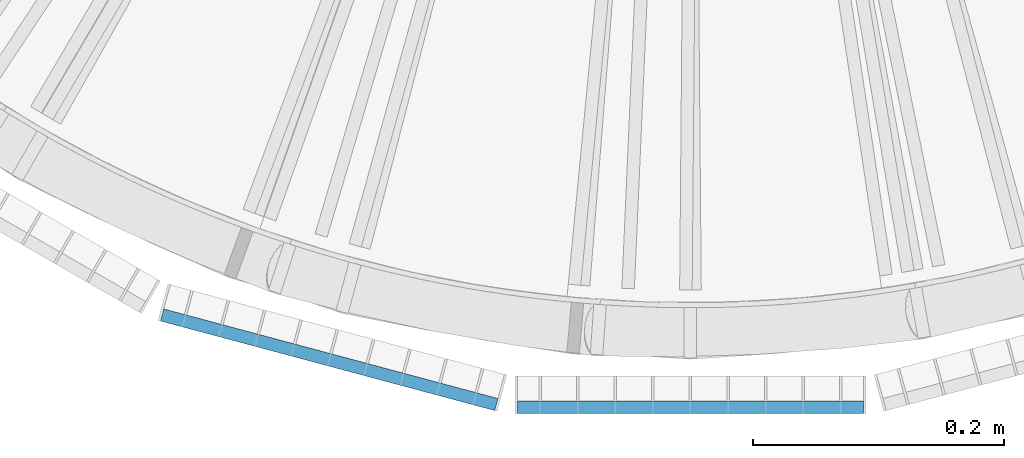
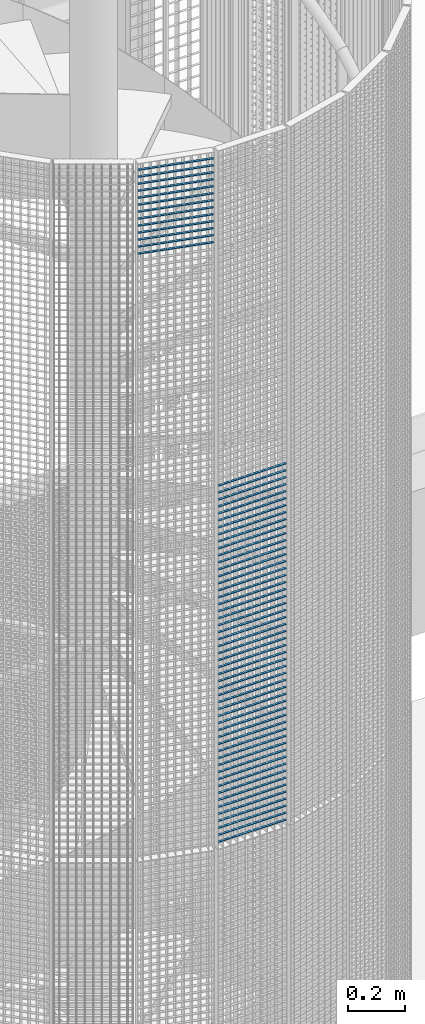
# One storey, part 136 of 1148: 65 beams, 2 elements without a shape of their own.
"""IFC2X3 building model written with IfcOpenShell, lengths in millimetres."""

from ifc_helpers import new_model, si_unit, frame, origin_with_axes, origin_2d_with_axis, place, context, subcontext, project, spatial, rectangle, extrude, material, type_object, element, aggregate, save


model = new_model("IFC2X3")

# Units and contexts
model_context = context("Model", 3, precision=1e-05, world=origin_with_axes())
body_context = subcontext(model_context, "Body", "Model", "MODEL_VIEW")
ifc_project = project(units=[si_unit("LENGTHUNIT", "METRE", prefix="MILLI"), si_unit("AREAUNIT", "SQUARE_METRE"), si_unit("VOLUMEUNIT", "CUBIC_METRE"), si_unit("MASSUNIT", "GRAM", prefix="KILO"), si_unit("TIMEUNIT", "SECOND"), si_unit("PLANEANGLEUNIT", "RADIAN"), si_unit("SOLIDANGLEUNIT", "STERADIAN"), si_unit("THERMODYNAMICTEMPERATUREUNIT", "DEGREE_CELSIUS"), si_unit("LUMINOUSINTENSITYUNIT", "LUMEN")], contexts=[model_context])

# Site, building, storey
site_placement = place(None, origin_with_axes())
site = spatial("IfcSite", under=ifc_project, at=site_placement, Name="Undefined", CompositionType="ELEMENT")
building_placement = place(site_placement, origin_with_axes())
building = spatial("IfcBuilding", under=site, at=building_placement, Name="Undefined", CompositionType="ELEMENT")
storey_placement = place(building_placement, origin_with_axes())
storey = spatial("IfcBuildingStorey", under=building, at=storey_placement, Name="Undefined", CompositionType="ELEMENT", Elevation=0.0)

# Assembly, beams
assembly_1_placement = place(storey_placement, origin_with_axes())
assembly_1 = element("IfcElementAssembly", 1, at=assembly_1_placement, inside=storey, Name="BORDURE", AssemblyPlace="NOTDEFINED", PredefinedType="NOTDEFINED")
ifc_material = material(Name="STEEL/S235JR")
beam_type = type_object("IfcBeamType", Name="PL2*10", PredefinedType="NOTDEFINED")
beam_1_placement = place(assembly_1_placement, frame((-137.996003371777, -1113.47999999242, 16560.0), z_axis=(0.0, -1.0, 0.0), x_axis=(1.0, 0.0, 0.0)))
beam_1 = element("IfcBeam", 2, at=beam_1_placement, type_object=beam_type, material=ifc_material, Name="ENTRETOISE", context=body_context, shape_type="SweptSolid", body=[
    extrude(rectangle(XDim=2.0, YDim=10.0, at=origin_2d_with_axis()), frame((275.999999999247, 9.09494701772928e-13, 1.53210777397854e-14), z_axis=(-1.0, 0.0, 0.0), x_axis=(0.0, -1.0, 0.0)), (0.0, 0.0, 1.0), 276.0),
])
beam_2_placement = place(assembly_1_placement, frame((-137.996003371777, -1113.47999999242, 16530.0), z_axis=(0.0, -1.0, 0.0), x_axis=(1.0, 0.0, 0.0)))
beam_2 = element("IfcBeam", 3, at=beam_2_placement, type_object=beam_type, material=ifc_material, Name="ENTRETOISE", context=body_context, shape_type="SweptSolid", body=[
    extrude(rectangle(XDim=2.0, YDim=10.0, at=origin_2d_with_axis()), frame((275.999999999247, 9.09494701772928e-13, 1.53210777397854e-14), z_axis=(-1.0, 0.0, 0.0), x_axis=(0.0, -1.0, 0.0)), (0.0, 0.0, 1.0), 276.0),
])
beam_3_placement = place(assembly_1_placement, frame((-137.996003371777, -1113.47999999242, 16500.0), z_axis=(0.0, -1.0, 0.0), x_axis=(1.0, 0.0, 0.0)))
beam_3 = element("IfcBeam", 4, at=beam_3_placement, type_object=beam_type, material=ifc_material, Name="ENTRETOISE", context=body_context, shape_type="SweptSolid", body=[
    extrude(rectangle(XDim=2.0, YDim=10.0, at=origin_2d_with_axis()), frame((275.999999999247, 9.09494701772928e-13, 1.53210777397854e-14), z_axis=(-1.0, 0.0, 0.0), x_axis=(0.0, -1.0, 0.0)), (0.0, 0.0, 1.0), 276.0),
])
beam_4_placement = place(assembly_1_placement, frame((-137.996003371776, -1113.47999999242, 16470.0), z_axis=(0.0, -1.0, 0.0), x_axis=(1.0, 0.0, 0.0)))
beam_4 = element("IfcBeam", 5, at=beam_4_placement, type_object=beam_type, material=ifc_material, Name="ENTRETOISE", context=body_context, shape_type="SweptSolid", body=[
    extrude(rectangle(XDim=2.0, YDim=10.0, at=origin_2d_with_axis()), frame((275.999999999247, 9.09494701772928e-13, 1.53210777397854e-14), z_axis=(-1.0, 0.0, 0.0), x_axis=(0.0, -1.0, 0.0)), (0.0, 0.0, 1.0), 276.0),
])
beam_5_placement = place(assembly_1_placement, frame((-137.996003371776, -1113.47999999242, 16440.0), z_axis=(0.0, -1.0, 0.0), x_axis=(1.0, 0.0, 0.0)))
beam_5 = element("IfcBeam", 6, at=beam_5_placement, type_object=beam_type, material=ifc_material, Name="ENTRETOISE", context=body_context, shape_type="SweptSolid", body=[
    extrude(rectangle(XDim=2.0, YDim=10.0, at=origin_2d_with_axis()), frame((275.999999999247, 9.09494701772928e-13, 1.53210777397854e-14), z_axis=(-1.0, 0.0, 0.0), x_axis=(0.0, -1.0, 0.0)), (0.0, 0.0, 1.0), 276.0),
])
beam_6_placement = place(assembly_1_placement, frame((-137.996003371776, -1113.47999999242, 16410.0), z_axis=(0.0, -1.0, 0.0), x_axis=(1.0, 0.0, 0.0)))
beam_6 = element("IfcBeam", 7, at=beam_6_placement, type_object=beam_type, material=ifc_material, Name="ENTRETOISE", context=body_context, shape_type="SweptSolid", body=[
    extrude(rectangle(XDim=2.0, YDim=10.0, at=origin_2d_with_axis()), frame((275.999999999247, 9.09494701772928e-13, 1.53210777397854e-14), z_axis=(-1.0, 0.0, 0.0), x_axis=(0.0, -1.0, 0.0)), (0.0, 0.0, 1.0), 276.0),
])
beam_7_placement = place(assembly_1_placement, frame((-137.996003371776, -1113.47999999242, 16380.0), z_axis=(0.0, -1.0, 0.0), x_axis=(1.0, 0.0, 0.0)))
beam_7 = element("IfcBeam", 8, at=beam_7_placement, type_object=beam_type, material=ifc_material, Name="ENTRETOISE", context=body_context, shape_type="SweptSolid", body=[
    extrude(rectangle(XDim=2.0, YDim=10.0, at=origin_2d_with_axis()), frame((275.999999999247, 9.09494701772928e-13, 1.53210777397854e-14), z_axis=(-1.0, 0.0, 0.0), x_axis=(0.0, -1.0, 0.0)), (0.0, 0.0, 1.0), 276.0),
])
beam_8_placement = place(assembly_1_placement, frame((-137.996003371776, -1113.47999999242, 16350.0), z_axis=(0.0, -1.0, 0.0), x_axis=(1.0, 0.0, 0.0)))
beam_8 = element("IfcBeam", 9, at=beam_8_placement, type_object=beam_type, material=ifc_material, Name="ENTRETOISE", context=body_context, shape_type="SweptSolid", body=[
    extrude(rectangle(XDim=2.0, YDim=10.0, at=origin_2d_with_axis()), frame((275.999999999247, 9.09494701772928e-13, 1.53210777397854e-14), z_axis=(-1.0, 0.0, 0.0), x_axis=(0.0, -1.0, 0.0)), (0.0, 0.0, 1.0), 276.0),
])
beam_9_placement = place(assembly_1_placement, frame((-137.996003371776, -1113.47999999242, 16320.0), z_axis=(0.0, -1.0, 0.0), x_axis=(1.0, 0.0, 0.0)))
beam_9 = element("IfcBeam", 10, at=beam_9_placement, type_object=beam_type, material=ifc_material, Name="ENTRETOISE", context=body_context, shape_type="SweptSolid", body=[
    extrude(rectangle(XDim=2.0, YDim=10.0, at=origin_2d_with_axis()), frame((275.999999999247, 9.09494701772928e-13, 1.53210777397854e-14), z_axis=(-1.0, 0.0, 0.0), x_axis=(0.0, -1.0, 0.0)), (0.0, 0.0, 1.0), 276.0),
])
beam_10_placement = place(assembly_1_placement, frame((-137.996003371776, -1113.47999999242, 16290.0), z_axis=(0.0, -1.0, 0.0), x_axis=(1.0, 0.0, 0.0)))
beam_10 = element("IfcBeam", 11, at=beam_10_placement, type_object=beam_type, material=ifc_material, Name="ENTRETOISE", context=body_context, shape_type="SweptSolid", body=[
    extrude(rectangle(XDim=2.0, YDim=10.0, at=origin_2d_with_axis()), frame((275.999999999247, 9.09494701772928e-13, 1.53210777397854e-14), z_axis=(-1.0, 0.0, 0.0), x_axis=(0.0, -1.0, 0.0)), (0.0, 0.0, 1.0), 276.0),
])
beam_11_placement = place(assembly_1_placement, frame((-137.996003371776, -1113.47999999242, 16260.0), z_axis=(0.0, -1.0, 0.0), x_axis=(1.0, 0.0, 0.0)))
beam_11 = element("IfcBeam", 12, at=beam_11_placement, type_object=beam_type, material=ifc_material, Name="ENTRETOISE", context=body_context, shape_type="SweptSolid", body=[
    extrude(rectangle(XDim=2.0, YDim=10.0, at=origin_2d_with_axis()), frame((275.999999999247, 9.09494701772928e-13, 1.53210777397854e-14), z_axis=(-1.0, 0.0, 0.0), x_axis=(0.0, -1.0, 0.0)), (0.0, 0.0, 1.0), 276.0),
])
beam_12_placement = place(assembly_1_placement, frame((-137.996003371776, -1113.47999999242, 16230.0), z_axis=(0.0, -1.0, 0.0), x_axis=(1.0, 0.0, 0.0)))
beam_12 = element("IfcBeam", 13, at=beam_12_placement, type_object=beam_type, material=ifc_material, Name="ENTRETOISE", context=body_context, shape_type="SweptSolid", body=[
    extrude(rectangle(XDim=2.0, YDim=10.0, at=origin_2d_with_axis()), frame((275.999999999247, 9.09494701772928e-13, 1.53210777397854e-14), z_axis=(-1.0, 0.0, 0.0), x_axis=(0.0, -1.0, 0.0)), (0.0, 0.0, 1.0), 276.0),
])
beam_13_placement = place(assembly_1_placement, frame((-137.996003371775, -1113.47999999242, 16200.0), z_axis=(0.0, -1.0, 0.0), x_axis=(1.0, 0.0, 0.0)))
beam_13 = element("IfcBeam", 14, at=beam_13_placement, type_object=beam_type, material=ifc_material, Name="ENTRETOISE", context=body_context, shape_type="SweptSolid", body=[
    extrude(rectangle(XDim=2.0, YDim=10.0, at=origin_2d_with_axis()), frame((275.999999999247, 9.09494701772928e-13, 1.53210777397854e-14), z_axis=(-1.0, 0.0, 0.0), x_axis=(0.0, -1.0, 0.0)), (0.0, 0.0, 1.0), 276.0),
])
beam_14_placement = place(assembly_1_placement, frame((-137.996003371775, -1113.47999999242, 16170.0), z_axis=(0.0, -1.0, 0.0), x_axis=(1.0, 0.0, 0.0)))
beam_14 = element("IfcBeam", 15, at=beam_14_placement, type_object=beam_type, material=ifc_material, Name="ENTRETOISE", context=body_context, shape_type="SweptSolid", body=[
    extrude(rectangle(XDim=2.0, YDim=10.0, at=origin_2d_with_axis()), frame((275.999999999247, 9.09494701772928e-13, 1.53210777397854e-14), z_axis=(-1.0, 0.0, 0.0), x_axis=(0.0, -1.0, 0.0)), (0.0, 0.0, 1.0), 276.0),
])
beam_15_placement = place(assembly_1_placement, frame((-137.996003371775, -1113.47999999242, 16140.0), z_axis=(0.0, -1.0, 0.0), x_axis=(1.0, 0.0, 0.0)))
beam_15 = element("IfcBeam", 16, at=beam_15_placement, type_object=beam_type, material=ifc_material, Name="ENTRETOISE", context=body_context, shape_type="SweptSolid", body=[
    extrude(rectangle(XDim=2.0, YDim=10.0, at=origin_2d_with_axis()), frame((275.999999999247, 9.09494701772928e-13, 1.53210777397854e-14), z_axis=(-1.0, 0.0, 0.0), x_axis=(0.0, -1.0, 0.0)), (0.0, 0.0, 1.0), 276.0),
])
beam_16_placement = place(assembly_1_placement, frame((-137.996003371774, -1113.47999999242, 15720.0), z_axis=(0.0, -1.0, 0.0), x_axis=(1.0, 0.0, 0.0)))
beam_16 = element("IfcBeam", 17, at=beam_16_placement, type_object=beam_type, material=ifc_material, Name="ENTRETOISE", context=body_context, shape_type="SweptSolid", body=[
    extrude(rectangle(XDim=2.0, YDim=10.0, at=origin_2d_with_axis()), frame((275.999999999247, 9.09494701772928e-13, 1.53210777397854e-14), z_axis=(-1.0, 0.0, 0.0), x_axis=(0.0, -1.0, 0.0)), (0.0, 0.0, 1.0), 276.0),
])
beam_17_placement = place(assembly_1_placement, frame((-137.996003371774, -1113.47999999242, 15690.0), z_axis=(0.0, -1.0, 0.0), x_axis=(1.0, 0.0, 0.0)))
beam_17 = element("IfcBeam", 18, at=beam_17_placement, type_object=beam_type, material=ifc_material, Name="ENTRETOISE", context=body_context, shape_type="SweptSolid", body=[
    extrude(rectangle(XDim=2.0, YDim=10.0, at=origin_2d_with_axis()), frame((275.999999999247, 9.09494701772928e-13, 1.53210777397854e-14), z_axis=(-1.0, 0.0, 0.0), x_axis=(0.0, -1.0, 0.0)), (0.0, 0.0, 1.0), 276.0),
])
beam_18_placement = place(assembly_1_placement, frame((-137.996003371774, -1113.47999999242, 15750.0), z_axis=(0.0, -1.0, 0.0), x_axis=(1.0, 0.0, 0.0)))
beam_18 = element("IfcBeam", 19, at=beam_18_placement, type_object=beam_type, material=ifc_material, Name="ENTRETOISE", context=body_context, shape_type="SweptSolid", body=[
    extrude(rectangle(XDim=2.0, YDim=10.0, at=origin_2d_with_axis()), frame((275.999999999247, 9.09494701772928e-13, 1.53210777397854e-14), z_axis=(-1.0, 0.0, 0.0), x_axis=(0.0, -1.0, 0.0)), (0.0, 0.0, 1.0), 276.0),
])
beam_19_placement = place(assembly_1_placement, frame((-137.996003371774, -1113.47999999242, 15660.0), z_axis=(0.0, -1.0, 0.0), x_axis=(1.0, 0.0, 0.0)))
beam_19 = element("IfcBeam", 20, at=beam_19_placement, type_object=beam_type, material=ifc_material, Name="ENTRETOISE", context=body_context, shape_type="SweptSolid", body=[
    extrude(rectangle(XDim=2.0, YDim=10.0, at=origin_2d_with_axis()), frame((275.999999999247, 9.09494701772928e-13, 1.53210777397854e-14), z_axis=(-1.0, 0.0, 0.0), x_axis=(0.0, -1.0, 0.0)), (0.0, 0.0, 1.0), 276.0),
])
beam_20_placement = place(assembly_1_placement, frame((-137.996003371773, -1113.47999999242, 15630.0), z_axis=(0.0, -1.0, 0.0), x_axis=(1.0, 0.0, 0.0)))
beam_20 = element("IfcBeam", 21, at=beam_20_placement, type_object=beam_type, material=ifc_material, Name="ENTRETOISE", context=body_context, shape_type="SweptSolid", body=[
    extrude(rectangle(XDim=2.0, YDim=10.0, at=origin_2d_with_axis()), frame((275.999999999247, 9.09494701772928e-13, 1.53210777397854e-14), z_axis=(-1.0, 0.0, 0.0), x_axis=(0.0, -1.0, 0.0)), (0.0, 0.0, 1.0), 276.0),
])
beam_21_placement = place(assembly_1_placement, frame((-137.996003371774, -1113.47999999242, 15780.0), z_axis=(0.0, -1.0, 0.0), x_axis=(1.0, 0.0, 0.0)))
beam_21 = element("IfcBeam", 22, at=beam_21_placement, type_object=beam_type, material=ifc_material, Name="ENTRETOISE", context=body_context, shape_type="SweptSolid", body=[
    extrude(rectangle(XDim=2.0, YDim=10.0, at=origin_2d_with_axis()), frame((275.999999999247, 9.09494701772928e-13, 1.53210777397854e-14), z_axis=(-1.0, 0.0, 0.0), x_axis=(0.0, -1.0, 0.0)), (0.0, 0.0, 1.0), 276.0),
])
beam_22_placement = place(assembly_1_placement, frame((-137.996003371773, -1113.47999999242, 15600.0), z_axis=(0.0, -1.0, 0.0), x_axis=(1.0, 0.0, 0.0)))
beam_22 = element("IfcBeam", 23, at=beam_22_placement, type_object=beam_type, material=ifc_material, Name="ENTRETOISE", context=body_context, shape_type="SweptSolid", body=[
    extrude(rectangle(XDim=2.0, YDim=10.0, at=origin_2d_with_axis()), frame((275.999999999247, 9.09494701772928e-13, 1.53210777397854e-14), z_axis=(-1.0, 0.0, 0.0), x_axis=(0.0, -1.0, 0.0)), (0.0, 0.0, 1.0), 276.0),
])
beam_23_placement = place(assembly_1_placement, frame((-137.996003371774, -1113.47999999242, 15810.0), z_axis=(0.0, -1.0, 0.0), x_axis=(1.0, 0.0, 0.0)))
beam_23 = element("IfcBeam", 24, at=beam_23_placement, type_object=beam_type, material=ifc_material, Name="ENTRETOISE", context=body_context, shape_type="SweptSolid", body=[
    extrude(rectangle(XDim=2.0, YDim=10.0, at=origin_2d_with_axis()), frame((275.999999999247, 9.09494701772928e-13, 1.53210777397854e-14), z_axis=(-1.0, 0.0, 0.0), x_axis=(0.0, -1.0, 0.0)), (0.0, 0.0, 1.0), 276.0),
])
beam_24_placement = place(assembly_1_placement, frame((-137.996003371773, -1113.47999999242, 15570.0), z_axis=(0.0, -1.0, 0.0), x_axis=(1.0, 0.0, 0.0)))
beam_24 = element("IfcBeam", 25, at=beam_24_placement, type_object=beam_type, material=ifc_material, Name="ENTRETOISE", context=body_context, shape_type="SweptSolid", body=[
    extrude(rectangle(XDim=2.0, YDim=10.0, at=origin_2d_with_axis()), frame((275.999999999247, 9.09494701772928e-13, 1.53210777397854e-14), z_axis=(-1.0, 0.0, 0.0), x_axis=(0.0, -1.0, 0.0)), (0.0, 0.0, 1.0), 276.0),
])
beam_25_placement = place(assembly_1_placement, frame((-137.996003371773, -1113.47999999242, 15540.0), z_axis=(0.0, -1.0, 0.0), x_axis=(1.0, 0.0, 0.0)))
beam_25 = element("IfcBeam", 26, at=beam_25_placement, type_object=beam_type, material=ifc_material, Name="ENTRETOISE", context=body_context, shape_type="SweptSolid", body=[
    extrude(rectangle(XDim=2.0, YDim=10.0, at=origin_2d_with_axis()), frame((275.999999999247, 9.09494701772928e-13, 1.53210777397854e-14), z_axis=(-1.0, 0.0, 0.0), x_axis=(0.0, -1.0, 0.0)), (0.0, 0.0, 1.0), 276.0),
])
beam_26_placement = place(assembly_1_placement, frame((-137.996003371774, -1113.47999999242, 15840.0), z_axis=(0.0, -1.0, 0.0), x_axis=(1.0, 0.0, 0.0)))
beam_26 = element("IfcBeam", 27, at=beam_26_placement, type_object=beam_type, material=ifc_material, Name="ENTRETOISE", context=body_context, shape_type="SweptSolid", body=[
    extrude(rectangle(XDim=2.0, YDim=10.0, at=origin_2d_with_axis()), frame((275.999999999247, 9.09494701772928e-13, 1.53210777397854e-14), z_axis=(-1.0, 0.0, 0.0), x_axis=(0.0, -1.0, 0.0)), (0.0, 0.0, 1.0), 276.0),
])
beam_27_placement = place(assembly_1_placement, frame((-137.996003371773, -1113.47999999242, 15510.0), z_axis=(0.0, -1.0, 0.0), x_axis=(1.0, 0.0, 0.0)))
beam_27 = element("IfcBeam", 28, at=beam_27_placement, type_object=beam_type, material=ifc_material, Name="ENTRETOISE", context=body_context, shape_type="SweptSolid", body=[
    extrude(rectangle(XDim=2.0, YDim=10.0, at=origin_2d_with_axis()), frame((275.999999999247, 9.09494701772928e-13, 1.53210777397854e-14), z_axis=(-1.0, 0.0, 0.0), x_axis=(0.0, -1.0, 0.0)), (0.0, 0.0, 1.0), 276.0),
])
beam_28_placement = place(assembly_1_placement, frame((-137.996003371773, -1113.47999999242, 15480.0), z_axis=(0.0, -1.0, 0.0), x_axis=(1.0, 0.0, 0.0)))
beam_28 = element("IfcBeam", 29, at=beam_28_placement, type_object=beam_type, material=ifc_material, Name="ENTRETOISE", context=body_context, shape_type="SweptSolid", body=[
    extrude(rectangle(XDim=2.0, YDim=10.0, at=origin_2d_with_axis()), frame((275.999999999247, 9.09494701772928e-13, 1.53210777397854e-14), z_axis=(-1.0, 0.0, 0.0), x_axis=(0.0, -1.0, 0.0)), (0.0, 0.0, 1.0), 276.0),
])
beam_29_placement = place(assembly_1_placement, frame((-137.996003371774, -1113.47999999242, 15870.0), z_axis=(0.0, -1.0, 0.0), x_axis=(1.0, 0.0, 0.0)))
beam_29 = element("IfcBeam", 30, at=beam_29_placement, type_object=beam_type, material=ifc_material, Name="ENTRETOISE", context=body_context, shape_type="SweptSolid", body=[
    extrude(rectangle(XDim=2.0, YDim=10.0, at=origin_2d_with_axis()), frame((275.999999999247, 9.09494701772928e-13, 1.53210777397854e-14), z_axis=(-1.0, 0.0, 0.0), x_axis=(0.0, -1.0, 0.0)), (0.0, 0.0, 1.0), 276.0),
])
beam_30_placement = place(assembly_1_placement, frame((-137.996003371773, -1113.47999999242, 15450.0), z_axis=(0.0, -1.0, 0.0), x_axis=(1.0, 0.0, 0.0)))
beam_30 = element("IfcBeam", 31, at=beam_30_placement, type_object=beam_type, material=ifc_material, Name="ENTRETOISE", context=body_context, shape_type="SweptSolid", body=[
    extrude(rectangle(XDim=2.0, YDim=10.0, at=origin_2d_with_axis()), frame((275.999999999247, 9.09494701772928e-13, 1.53210777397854e-14), z_axis=(-1.0, 0.0, 0.0), x_axis=(0.0, -1.0, 0.0)), (0.0, 0.0, 1.0), 276.0),
])
beam_31_placement = place(assembly_1_placement, frame((-137.996003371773, -1113.47999999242, 15420.0), z_axis=(0.0, -1.0, 0.0), x_axis=(1.0, 0.0, 0.0)))
beam_31 = element("IfcBeam", 32, at=beam_31_placement, type_object=beam_type, material=ifc_material, Name="ENTRETOISE", context=body_context, shape_type="SweptSolid", body=[
    extrude(rectangle(XDim=2.0, YDim=10.0, at=origin_2d_with_axis()), frame((275.999999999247, 9.09494701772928e-13, 1.53210777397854e-14), z_axis=(-1.0, 0.0, 0.0), x_axis=(0.0, -1.0, 0.0)), (0.0, 0.0, 1.0), 276.0),
])
beam_32_placement = place(assembly_1_placement, frame((-137.996003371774, -1113.47999999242, 15900.0), z_axis=(0.0, -1.0, 0.0), x_axis=(1.0, 0.0, 0.0)))
beam_32 = element("IfcBeam", 33, at=beam_32_placement, type_object=beam_type, material=ifc_material, Name="ENTRETOISE", context=body_context, shape_type="SweptSolid", body=[
    extrude(rectangle(XDim=2.0, YDim=10.0, at=origin_2d_with_axis()), frame((275.999999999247, 9.09494701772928e-13, 1.53210777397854e-14), z_axis=(-1.0, 0.0, 0.0), x_axis=(0.0, -1.0, 0.0)), (0.0, 0.0, 1.0), 276.0),
])
beam_33_placement = place(assembly_1_placement, frame((-137.996003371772, -1113.47999999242, 15390.0), z_axis=(0.0, -1.0, 0.0), x_axis=(1.0, 0.0, 0.0)))
beam_33 = element("IfcBeam", 34, at=beam_33_placement, type_object=beam_type, material=ifc_material, Name="ENTRETOISE", context=body_context, shape_type="SweptSolid", body=[
    extrude(rectangle(XDim=2.0, YDim=10.0, at=origin_2d_with_axis()), frame((275.999999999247, 9.09494701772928e-13, 1.53210777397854e-14), z_axis=(-1.0, 0.0, 0.0), x_axis=(0.0, -1.0, 0.0)), (0.0, 0.0, 1.0), 276.0),
])
beam_34_placement = place(assembly_1_placement, frame((-137.996003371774, -1113.47999999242, 15930.0), z_axis=(0.0, -1.0, 0.0), x_axis=(1.0, 0.0, 0.0)))
beam_34 = element("IfcBeam", 35, at=beam_34_placement, type_object=beam_type, material=ifc_material, Name="ENTRETOISE", context=body_context, shape_type="SweptSolid", body=[
    extrude(rectangle(XDim=2.0, YDim=10.0, at=origin_2d_with_axis()), frame((275.999999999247, 9.09494701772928e-13, 1.53210777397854e-14), z_axis=(-1.0, 0.0, 0.0), x_axis=(0.0, -1.0, 0.0)), (0.0, 0.0, 1.0), 276.0),
])
beam_35_placement = place(assembly_1_placement, frame((-137.996003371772, -1113.47999999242, 15360.0), z_axis=(0.0, -1.0, 0.0), x_axis=(1.0, 0.0, 0.0)))
beam_35 = element("IfcBeam", 36, at=beam_35_placement, type_object=beam_type, material=ifc_material, Name="ENTRETOISE", context=body_context, shape_type="SweptSolid", body=[
    extrude(rectangle(XDim=2.0, YDim=10.0, at=origin_2d_with_axis()), frame((275.999999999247, 9.09494701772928e-13, 1.53210777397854e-14), z_axis=(-1.0, 0.0, 0.0), x_axis=(0.0, -1.0, 0.0)), (0.0, 0.0, 1.0), 276.0),
])
beam_36_placement = place(assembly_1_placement, frame((-137.996003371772, -1113.47999999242, 15330.0), z_axis=(0.0, -1.0, 0.0), x_axis=(1.0, 0.0, 0.0)))
beam_36 = element("IfcBeam", 37, at=beam_36_placement, type_object=beam_type, material=ifc_material, Name="ENTRETOISE", context=body_context, shape_type="SweptSolid", body=[
    extrude(rectangle(XDim=2.0, YDim=10.0, at=origin_2d_with_axis()), frame((275.999999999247, 9.09494701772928e-13, 1.53210777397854e-14), z_axis=(-1.0, 0.0, 0.0), x_axis=(0.0, -1.0, 0.0)), (0.0, 0.0, 1.0), 276.0),
])
beam_37_placement = place(assembly_1_placement, frame((-137.996003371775, -1113.47999999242, 15960.0), z_axis=(0.0, -1.0, 0.0), x_axis=(1.0, 0.0, 0.0)))
beam_37 = element("IfcBeam", 38, at=beam_37_placement, type_object=beam_type, material=ifc_material, Name="ENTRETOISE", context=body_context, shape_type="SweptSolid", body=[
    extrude(rectangle(XDim=2.0, YDim=10.0, at=origin_2d_with_axis()), frame((275.999999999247, 9.09494701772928e-13, 1.53210777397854e-14), z_axis=(-1.0, 0.0, 0.0), x_axis=(0.0, -1.0, 0.0)), (0.0, 0.0, 1.0), 276.0),
])
beam_38_placement = place(assembly_1_placement, frame((-137.996003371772, -1113.47999999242, 15300.0), z_axis=(0.0, -1.0, 0.0), x_axis=(1.0, 0.0, 0.0)))
beam_38 = element("IfcBeam", 39, at=beam_38_placement, type_object=beam_type, material=ifc_material, Name="ENTRETOISE", context=body_context, shape_type="SweptSolid", body=[
    extrude(rectangle(XDim=2.0, YDim=10.0, at=origin_2d_with_axis()), frame((275.999999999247, 9.09494701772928e-13, 1.53210777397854e-14), z_axis=(-1.0, 0.0, 0.0), x_axis=(0.0, -1.0, 0.0)), (0.0, 0.0, 1.0), 276.0),
])
beam_39_placement = place(assembly_1_placement, frame((-137.996003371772, -1113.47999999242, 15270.0), z_axis=(0.0, -1.0, 0.0), x_axis=(1.0, 0.0, 0.0)))
beam_39 = element("IfcBeam", 40, at=beam_39_placement, type_object=beam_type, material=ifc_material, Name="ENTRETOISE", context=body_context, shape_type="SweptSolid", body=[
    extrude(rectangle(XDim=2.0, YDim=10.0, at=origin_2d_with_axis()), frame((275.999999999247, 9.09494701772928e-13, 1.53210777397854e-14), z_axis=(-1.0, 0.0, 0.0), x_axis=(0.0, -1.0, 0.0)), (0.0, 0.0, 1.0), 276.0),
])
beam_40_placement = place(assembly_1_placement, frame((-137.996003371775, -1113.47999999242, 15990.0), z_axis=(0.0, -1.0, 0.0), x_axis=(1.0, 0.0, 0.0)))
beam_40 = element("IfcBeam", 41, at=beam_40_placement, type_object=beam_type, material=ifc_material, Name="ENTRETOISE", context=body_context, shape_type="SweptSolid", body=[
    extrude(rectangle(XDim=2.0, YDim=10.0, at=origin_2d_with_axis()), frame((275.999999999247, 9.09494701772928e-13, 1.53210777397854e-14), z_axis=(-1.0, 0.0, 0.0), x_axis=(0.0, -1.0, 0.0)), (0.0, 0.0, 1.0), 276.0),
])
beam_41_placement = place(assembly_1_placement, frame((-137.996003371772, -1113.47999999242, 15240.0), z_axis=(0.0, -1.0, 0.0), x_axis=(1.0, 0.0, 0.0)))
beam_41 = element("IfcBeam", 42, at=beam_41_placement, type_object=beam_type, material=ifc_material, Name="ENTRETOISE", context=body_context, shape_type="SweptSolid", body=[
    extrude(rectangle(XDim=2.0, YDim=10.0, at=origin_2d_with_axis()), frame((275.999999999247, 9.09494701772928e-13, 1.53210777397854e-14), z_axis=(-1.0, 0.0, 0.0), x_axis=(0.0, -1.0, 0.0)), (0.0, 0.0, 1.0), 276.0),
])
beam_42_placement = place(assembly_1_placement, frame((-137.996003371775, -1113.47999999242, 16020.0), z_axis=(0.0, -1.0, 0.0), x_axis=(1.0, 0.0, 0.0)))
beam_42 = element("IfcBeam", 43, at=beam_42_placement, type_object=beam_type, material=ifc_material, Name="ENTRETOISE", context=body_context, shape_type="SweptSolid", body=[
    extrude(rectangle(XDim=2.0, YDim=10.0, at=origin_2d_with_axis()), frame((275.999999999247, 9.09494701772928e-13, 1.53210777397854e-14), z_axis=(-1.0, 0.0, 0.0), x_axis=(0.0, -1.0, 0.0)), (0.0, 0.0, 1.0), 276.0),
])
beam_43_placement = place(assembly_1_placement, frame((-137.996003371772, -1113.47999999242, 15210.0), z_axis=(0.0, -1.0, 0.0), x_axis=(1.0, 0.0, 0.0)))
beam_43 = element("IfcBeam", 44, at=beam_43_placement, type_object=beam_type, material=ifc_material, Name="ENTRETOISE", context=body_context, shape_type="SweptSolid", body=[
    extrude(rectangle(XDim=2.0, YDim=10.0, at=origin_2d_with_axis()), frame((275.999999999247, 9.09494701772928e-13, 1.53210777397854e-14), z_axis=(-1.0, 0.0, 0.0), x_axis=(0.0, -1.0, 0.0)), (0.0, 0.0, 1.0), 276.0),
])
beam_44_placement = place(assembly_1_placement, frame((-137.996003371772, -1113.47999999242, 15180.0), z_axis=(0.0, -1.0, 0.0), x_axis=(1.0, 0.0, 0.0)))
beam_44 = element("IfcBeam", 45, at=beam_44_placement, type_object=beam_type, material=ifc_material, Name="ENTRETOISE", context=body_context, shape_type="SweptSolid", body=[
    extrude(rectangle(XDim=2.0, YDim=10.0, at=origin_2d_with_axis()), frame((275.999999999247, 9.09494701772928e-13, 1.53210777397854e-14), z_axis=(-1.0, 0.0, 0.0), x_axis=(0.0, -1.0, 0.0)), (0.0, 0.0, 1.0), 276.0),
])
beam_45_placement = place(assembly_1_placement, frame((-137.996003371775, -1113.47999999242, 16050.0), z_axis=(0.0, -1.0, 0.0), x_axis=(1.0, 0.0, 0.0)))
beam_45 = element("IfcBeam", 46, at=beam_45_placement, type_object=beam_type, material=ifc_material, Name="ENTRETOISE", context=body_context, shape_type="SweptSolid", body=[
    extrude(rectangle(XDim=2.0, YDim=10.0, at=origin_2d_with_axis()), frame((275.999999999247, 9.09494701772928e-13, 1.53210777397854e-14), z_axis=(-1.0, 0.0, 0.0), x_axis=(0.0, -1.0, 0.0)), (0.0, 0.0, 1.0), 276.0),
])
beam_46_placement = place(assembly_1_placement, frame((-137.996003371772, -1113.47999999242, 15150.0), z_axis=(0.0, -1.0, 0.0), x_axis=(1.0, 0.0, 0.0)))
beam_46 = element("IfcBeam", 47, at=beam_46_placement, type_object=beam_type, material=ifc_material, Name="ENTRETOISE", context=body_context, shape_type="SweptSolid", body=[
    extrude(rectangle(XDim=2.0, YDim=10.0, at=origin_2d_with_axis()), frame((275.999999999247, 9.09494701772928e-13, 1.53210777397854e-14), z_axis=(-1.0, 0.0, 0.0), x_axis=(0.0, -1.0, 0.0)), (0.0, 0.0, 1.0), 276.0),
])
beam_47_placement = place(assembly_1_placement, frame((-137.996003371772, -1113.47999999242, 15120.0), z_axis=(0.0, -1.0, 0.0), x_axis=(1.0, 0.0, 0.0)))
beam_47 = element("IfcBeam", 48, at=beam_47_placement, type_object=beam_type, material=ifc_material, Name="ENTRETOISE", context=body_context, shape_type="SweptSolid", body=[
    extrude(rectangle(XDim=2.0, YDim=10.0, at=origin_2d_with_axis()), frame((275.999999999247, 9.09494701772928e-13, 1.53210777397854e-14), z_axis=(-1.0, 0.0, 0.0), x_axis=(0.0, -1.0, 0.0)), (0.0, 0.0, 1.0), 276.0),
])
beam_48_placement = place(assembly_1_placement, frame((-137.996003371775, -1113.47999999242, 16080.0), z_axis=(0.0, -1.0, 0.0), x_axis=(1.0, 0.0, 0.0)))
beam_48 = element("IfcBeam", 49, at=beam_48_placement, type_object=beam_type, material=ifc_material, Name="ENTRETOISE", context=body_context, shape_type="SweptSolid", body=[
    extrude(rectangle(XDim=2.0, YDim=10.0, at=origin_2d_with_axis()), frame((275.999999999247, 9.09494701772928e-13, 1.53210777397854e-14), z_axis=(-1.0, 0.0, 0.0), x_axis=(0.0, -1.0, 0.0)), (0.0, 0.0, 1.0), 276.0),
])
beam_49_placement = place(assembly_1_placement, frame((-137.996003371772, -1113.47999999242, 15090.0), z_axis=(0.0, -1.0, 0.0), x_axis=(1.0, 0.0, 0.0)))
beam_49 = element("IfcBeam", 50, at=beam_49_placement, type_object=beam_type, material=ifc_material, Name="ENTRETOISE", context=body_context, shape_type="SweptSolid", body=[
    extrude(rectangle(XDim=2.0, YDim=10.0, at=origin_2d_with_axis()), frame((275.999999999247, 9.09494701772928e-13, 1.53210777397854e-14), z_axis=(-1.0, 0.0, 0.0), x_axis=(0.0, -1.0, 0.0)), (0.0, 0.0, 1.0), 276.0),
])
beam_50_placement = place(assembly_1_placement, frame((-137.996003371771, -1113.47999999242, 15060.0), z_axis=(0.0, -1.0, 0.0), x_axis=(1.0, 0.0, 0.0)))
beam_50 = element("IfcBeam", 51, at=beam_50_placement, type_object=beam_type, material=ifc_material, Name="ENTRETOISE", context=body_context, shape_type="SweptSolid", body=[
    extrude(rectangle(XDim=2.0, YDim=10.0, at=origin_2d_with_axis()), frame((275.999999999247, 9.09494701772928e-13, 1.53210777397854e-14), z_axis=(-1.0, 0.0, 0.0), x_axis=(0.0, -1.0, 0.0)), (0.0, 0.0, 1.0), 276.0),
])
beam_51_placement = place(assembly_1_placement, frame((-137.996003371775, -1113.47999999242, 16110.0), z_axis=(0.0, -1.0, 0.0), x_axis=(1.0, 0.0, 0.0)))
beam_51 = element("IfcBeam", 52, at=beam_51_placement, type_object=beam_type, material=ifc_material, Name="ENTRETOISE", context=body_context, shape_type="SweptSolid", body=[
    extrude(rectangle(XDim=2.0, YDim=10.0, at=origin_2d_with_axis()), frame((275.999999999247, 9.09494701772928e-13, 1.53210777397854e-14), z_axis=(-1.0, 0.0, 0.0), x_axis=(0.0, -1.0, 0.0)), (0.0, 0.0, 1.0), 276.0),
])
beam_52_placement = place(assembly_1_placement, frame((-137.99600337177, -1113.47999999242, 15030.0), z_axis=(0.0, -1.0, 0.0), x_axis=(1.0, 0.0, 0.0)))
beam_52 = element("IfcBeam", 53, at=beam_52_placement, type_object=beam_type, material=ifc_material, Name="ENTRETOISE", context=body_context, shape_type="SweptSolid", body=[
    extrude(rectangle(XDim=2.0, YDim=10.0, at=origin_2d_with_axis()), frame((275.999999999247, 9.09494701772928e-13, 1.53210777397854e-14), z_axis=(-1.0, 0.0, 0.0), x_axis=(0.0, -1.0, 0.0)), (0.0, 0.0, 1.0), 276.0),
])
aggregate(assembly_1, [beam_1, beam_2, beam_3, beam_4, beam_5, beam_6, beam_7, beam_8, beam_9, beam_10, beam_11, beam_12, beam_13, beam_14, beam_15, beam_16, beam_17, beam_18, beam_19, beam_20, beam_21, beam_22, beam_23, beam_24, beam_25, beam_26, beam_27, beam_28, beam_29, beam_30, beam_31, beam_32, beam_33, beam_34, beam_35, beam_36, beam_37, beam_38, beam_39, beam_40, beam_41, beam_42, beam_43, beam_44, beam_45, beam_46, beam_47, beam_48, beam_49, beam_50, beam_51, beam_52])

assembly_2_placement = place(storey_placement, origin_with_axes())
assembly_2 = element("IfcElementAssembly", 54, at=assembly_2_placement, inside=storey, Name="BORDURE", AssemblyPlace="NOTDEFINED", PredefinedType="NOTDEFINED")
beam_53_placement = place(assembly_2_placement, frame((-421.483733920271, -1039.82309522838, 17970.0), z_axis=(-0.258819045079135, -0.965925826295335, 0.0), x_axis=(0.965925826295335, -0.258819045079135, 0.0)))
beam_53 = element("IfcBeam", 55, at=beam_53_placement, type_object=beam_type, material=ifc_material, Name="ENTRETOISE", context=body_context, shape_type="SweptSolid", body=[
    extrude(rectangle(XDim=2.0, YDim=10.0, at=origin_2d_with_axis()), frame((275.999999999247, 9.09494701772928e-13, 1.53210777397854e-14), z_axis=(-1.0, 0.0, 0.0), x_axis=(0.0, -1.0, 0.0)), (0.0, 0.0, 1.0), 276.0),
])
beam_54_placement = place(assembly_2_placement, frame((-421.483733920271, -1039.82309522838, 17940.0), z_axis=(-0.258819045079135, -0.965925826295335, 0.0), x_axis=(0.965925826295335, -0.258819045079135, 0.0)))
beam_54 = element("IfcBeam", 56, at=beam_54_placement, type_object=beam_type, material=ifc_material, Name="ENTRETOISE", context=body_context, shape_type="SweptSolid", body=[
    extrude(rectangle(XDim=2.0, YDim=10.0, at=origin_2d_with_axis()), frame((275.999999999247, 9.09494701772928e-13, 1.53210777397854e-14), z_axis=(-1.0, 0.0, 0.0), x_axis=(0.0, -1.0, 0.0)), (0.0, 0.0, 1.0), 276.0),
])
beam_55_placement = place(assembly_2_placement, frame((-421.483733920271, -1039.82309522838, 17910.0), z_axis=(-0.258819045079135, -0.965925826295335, 0.0), x_axis=(0.965925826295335, -0.258819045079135, 0.0)))
beam_55 = element("IfcBeam", 57, at=beam_55_placement, type_object=beam_type, material=ifc_material, Name="ENTRETOISE", context=body_context, shape_type="SweptSolid", body=[
    extrude(rectangle(XDim=2.0, YDim=10.0, at=origin_2d_with_axis()), frame((275.999999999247, 9.09494701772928e-13, 1.53210777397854e-14), z_axis=(-1.0, 0.0, 0.0), x_axis=(0.0, -1.0, 0.0)), (0.0, 0.0, 1.0), 276.0),
])
beam_56_placement = place(assembly_2_placement, frame((-421.483733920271, -1039.82309522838, 17880.0), z_axis=(-0.258819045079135, -0.965925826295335, 0.0), x_axis=(0.965925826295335, -0.258819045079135, 0.0)))
beam_56 = element("IfcBeam", 58, at=beam_56_placement, type_object=beam_type, material=ifc_material, Name="ENTRETOISE", context=body_context, shape_type="SweptSolid", body=[
    extrude(rectangle(XDim=2.0, YDim=10.0, at=origin_2d_with_axis()), frame((275.999999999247, 9.09494701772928e-13, 1.53210777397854e-14), z_axis=(-1.0, 0.0, 0.0), x_axis=(0.0, -1.0, 0.0)), (0.0, 0.0, 1.0), 276.0),
])
beam_57_placement = place(assembly_2_placement, frame((-421.483733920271, -1039.82309522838, 17850.0), z_axis=(-0.258819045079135, -0.965925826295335, 0.0), x_axis=(0.965925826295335, -0.258819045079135, 0.0)))
beam_57 = element("IfcBeam", 59, at=beam_57_placement, type_object=beam_type, material=ifc_material, Name="ENTRETOISE", context=body_context, shape_type="SweptSolid", body=[
    extrude(rectangle(XDim=2.0, YDim=10.0, at=origin_2d_with_axis()), frame((275.999999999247, 9.09494701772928e-13, 1.53210777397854e-14), z_axis=(-1.0, 0.0, 0.0), x_axis=(0.0, -1.0, 0.0)), (0.0, 0.0, 1.0), 276.0),
])
beam_58_placement = place(assembly_2_placement, frame((-421.483733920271, -1039.82309522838, 17820.0), z_axis=(-0.258819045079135, -0.965925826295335, 0.0), x_axis=(0.965925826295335, -0.258819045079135, 0.0)))
beam_58 = element("IfcBeam", 60, at=beam_58_placement, type_object=beam_type, material=ifc_material, Name="ENTRETOISE", context=body_context, shape_type="SweptSolid", body=[
    extrude(rectangle(XDim=2.0, YDim=10.0, at=origin_2d_with_axis()), frame((275.999999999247, 9.09494701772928e-13, 1.53210777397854e-14), z_axis=(-1.0, 0.0, 0.0), x_axis=(0.0, -1.0, 0.0)), (0.0, 0.0, 1.0), 276.0),
])
beam_59_placement = place(assembly_2_placement, frame((-421.483733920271, -1039.82309522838, 17790.0), z_axis=(-0.258819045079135, -0.965925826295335, 0.0), x_axis=(0.965925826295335, -0.258819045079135, 0.0)))
beam_59 = element("IfcBeam", 61, at=beam_59_placement, type_object=beam_type, material=ifc_material, Name="ENTRETOISE", context=body_context, shape_type="SweptSolid", body=[
    extrude(rectangle(XDim=2.0, YDim=10.0, at=origin_2d_with_axis()), frame((275.999999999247, 9.09494701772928e-13, 1.53210777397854e-14), z_axis=(-1.0, 0.0, 0.0), x_axis=(0.0, -1.0, 0.0)), (0.0, 0.0, 1.0), 276.0),
])
beam_60_placement = place(assembly_2_placement, frame((-421.483733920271, -1039.82309522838, 17760.0), z_axis=(-0.258819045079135, -0.965925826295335, 0.0), x_axis=(0.965925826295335, -0.258819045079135, 0.0)))
beam_60 = element("IfcBeam", 62, at=beam_60_placement, type_object=beam_type, material=ifc_material, Name="ENTRETOISE", context=body_context, shape_type="SweptSolid", body=[
    extrude(rectangle(XDim=2.0, YDim=10.0, at=origin_2d_with_axis()), frame((275.999999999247, 9.09494701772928e-13, 1.53210777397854e-14), z_axis=(-1.0, 0.0, 0.0), x_axis=(0.0, -1.0, 0.0)), (0.0, 0.0, 1.0), 276.0),
])
beam_61_placement = place(assembly_2_placement, frame((-421.483733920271, -1039.82309522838, 17730.0), z_axis=(-0.258819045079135, -0.965925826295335, 0.0), x_axis=(0.965925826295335, -0.258819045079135, 0.0)))
beam_61 = element("IfcBeam", 63, at=beam_61_placement, type_object=beam_type, material=ifc_material, Name="ENTRETOISE", context=body_context, shape_type="SweptSolid", body=[
    extrude(rectangle(XDim=2.0, YDim=10.0, at=origin_2d_with_axis()), frame((275.999999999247, 9.09494701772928e-13, 1.53210777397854e-14), z_axis=(-1.0, 0.0, 0.0), x_axis=(0.0, -1.0, 0.0)), (0.0, 0.0, 1.0), 276.0),
])
beam_62_placement = place(assembly_2_placement, frame((-421.48373392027, -1039.82309522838, 17700.0), z_axis=(-0.258819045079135, -0.965925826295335, 0.0), x_axis=(0.965925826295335, -0.258819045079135, 0.0)))
beam_62 = element("IfcBeam", 64, at=beam_62_placement, type_object=beam_type, material=ifc_material, Name="ENTRETOISE", context=body_context, shape_type="SweptSolid", body=[
    extrude(rectangle(XDim=2.0, YDim=10.0, at=origin_2d_with_axis()), frame((275.999999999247, 9.09494701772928e-13, 1.53210777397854e-14), z_axis=(-1.0, 0.0, 0.0), x_axis=(0.0, -1.0, 0.0)), (0.0, 0.0, 1.0), 276.0),
])
beam_63_placement = place(assembly_2_placement, frame((-421.48373392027, -1039.82309522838, 17670.0), z_axis=(-0.258819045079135, -0.965925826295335, 0.0), x_axis=(0.965925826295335, -0.258819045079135, 0.0)))
beam_63 = element("IfcBeam", 65, at=beam_63_placement, type_object=beam_type, material=ifc_material, Name="ENTRETOISE", context=body_context, shape_type="SweptSolid", body=[
    extrude(rectangle(XDim=2.0, YDim=10.0, at=origin_2d_with_axis()), frame((275.999999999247, 9.09494701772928e-13, 1.53210777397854e-14), z_axis=(-1.0, 0.0, 0.0), x_axis=(0.0, -1.0, 0.0)), (0.0, 0.0, 1.0), 276.0),
])
beam_64_placement = place(assembly_2_placement, frame((-421.48373392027, -1039.82309522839, 17640.0), z_axis=(-0.258819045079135, -0.965925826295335, 0.0), x_axis=(0.965925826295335, -0.258819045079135, 0.0)))
beam_64 = element("IfcBeam", 66, at=beam_64_placement, type_object=beam_type, material=ifc_material, Name="ENTRETOISE", context=body_context, shape_type="SweptSolid", body=[
    extrude(rectangle(XDim=2.0, YDim=10.0, at=origin_2d_with_axis()), frame((275.999999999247, 9.09494701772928e-13, 1.53210777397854e-14), z_axis=(-1.0, 0.0, 0.0), x_axis=(0.0, -1.0, 0.0)), (0.0, 0.0, 1.0), 276.0),
])
beam_65_placement = place(assembly_2_placement, frame((-421.48373392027, -1039.82309522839, 17610.0), z_axis=(-0.258819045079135, -0.965925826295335, 0.0), x_axis=(0.965925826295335, -0.258819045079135, 0.0)))
beam_65 = element("IfcBeam", 67, at=beam_65_placement, type_object=beam_type, material=ifc_material, Name="ENTRETOISE", context=body_context, shape_type="SweptSolid", body=[
    extrude(rectangle(XDim=2.0, YDim=10.0, at=origin_2d_with_axis()), frame((275.999999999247, 9.09494701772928e-13, 1.53210777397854e-14), z_axis=(-1.0, 0.0, 0.0), x_axis=(0.0, -1.0, 0.0)), (0.0, 0.0, 1.0), 276.0),
])
aggregate(assembly_2, [beam_53, beam_54, beam_55, beam_56, beam_57, beam_58, beam_59, beam_60, beam_61, beam_62, beam_63, beam_64, beam_65])

save(model, "model.ifc")
